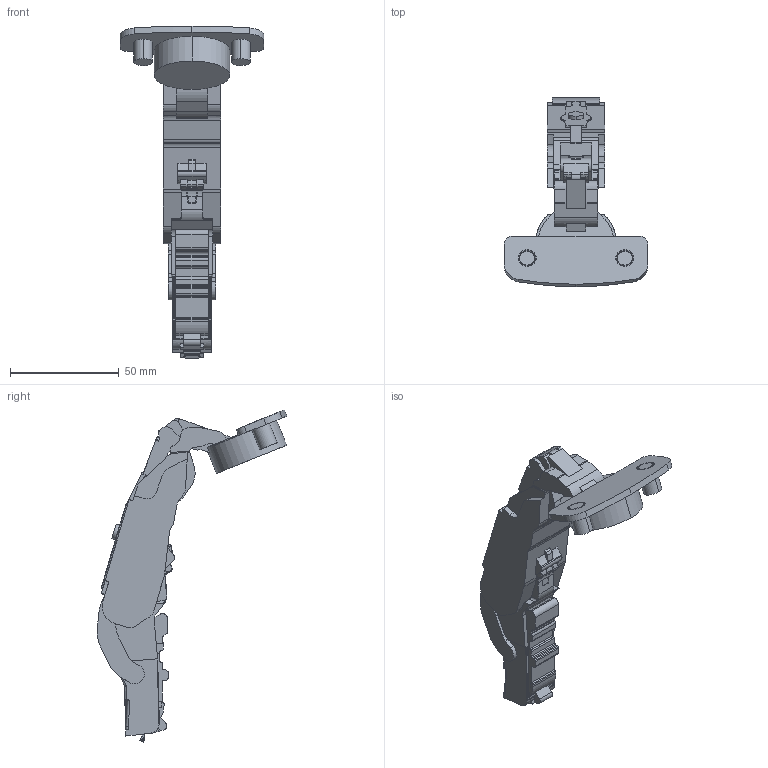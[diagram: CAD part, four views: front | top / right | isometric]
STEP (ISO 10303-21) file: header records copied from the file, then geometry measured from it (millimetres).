
FILE_DESCRIPTION (( 'STEP AP203' ), '1' );
FILE_NAME ('C81A805NFAB DTC 3D OPEN.STEP', '2024-07-30T01:52:26', ( '微软用户' ), ( '微软中国' ), 'SwSTEP 2.0', 'SolidWorks 2021', '' );
FILE_SCHEMA (( 'CONFIG_CONTROL_DESIGN' ));
Length unit declared in the file: millimetre
Products named in the file (1): C81A805NFAB DTC 3D OPEN
Bounding box: 66.2 x 87.36 x 152.94 mm (x, y, z)
Volume: 94477.3 mm3; surface area: 22627.2 mm2
Topology: 1 solids, 10 shells, 872 faces, 2380 edges, 1515 vertices
Faces by surface type: plane 348, cylinder 334, torus 116, bspline 68, cone 4, sphere 2
Entity records: 30491 total; most frequent: CARTESIAN_POINT 8571, ORIENTED_EDGE 4736, DIRECTION 4522, EDGE_CURVE 2368, AXIS2_PLACEMENT_3D 1629, VERTEX_POINT 1515, LINE 1264, VECTOR 1264
